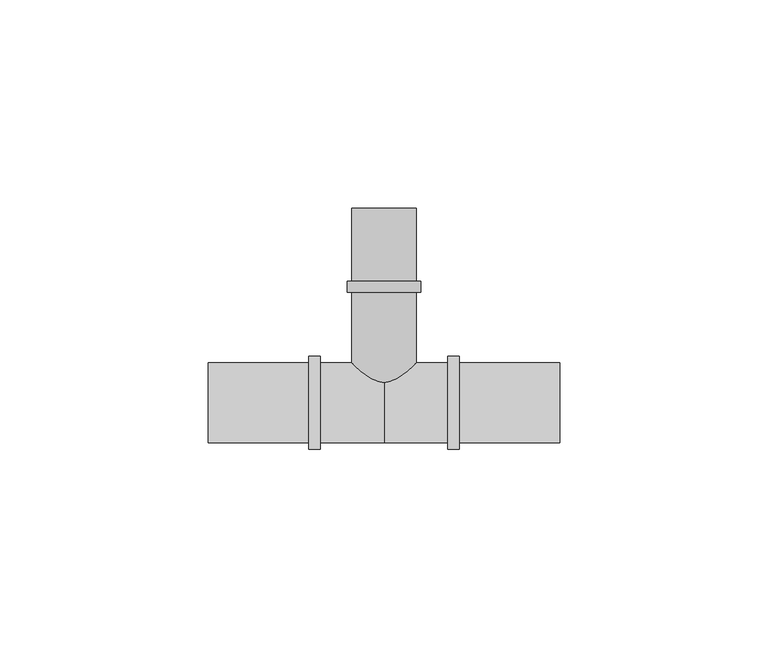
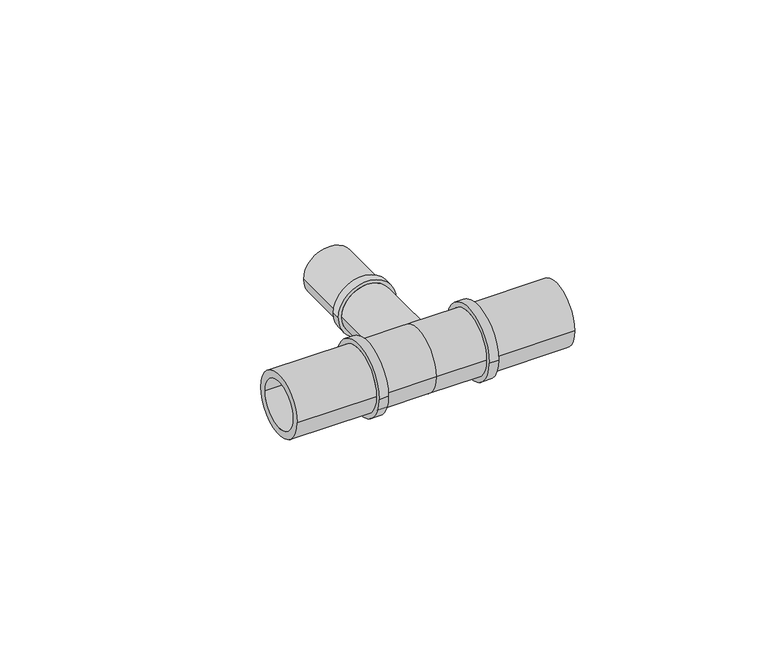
"""IFC4 building model written with IfcOpenShell, lengths in millimetres: pipe fitting geometry, FASTLOC_T-piece_LX : FSL T-Piece LX PL."""

import ifcopenshell
import ifcopenshell.guid

model = None  # the IFC model being written
_history = None  # IfcOwnerHistory: only IFC2X3 demands one
_inside = {}  # id of a spatial element -> (the spatial element, [elements in it])
_under = {}  # id of a project, library or spatial element -> (it, [spatial elements below it])
_declared = {}  # id of a project -> (the project, [libraries it declares])
_typed = {}  # id of a type object -> (the type object, [elements of that type])
_made_of = {}  # id of a material, layer set ... -> (it, [elements and type objects made of it])


def new_model(schema):
    """Start an empty IFC model of exactly this schema.

    Asked for "IFC4X3", IfcOpenShell would pick the latest addendum, in which some entities
    have other attributes; the version numbers below select the first issue.
    IFC2X3 requires an IfcOwnerHistory on every rooted entity: one is made here for all.
    """
    global model, _history
    if schema == "IFC4X3":
        model = ifcopenshell.file(schema_version=(4, 3, 0, 0))
    else:
        model = ifcopenshell.file(schema=schema)
    _inside.clear()
    _under.clear()
    _declared.clear()
    _typed.clear()
    _made_of.clear()
    _history = None
    if model.schema == "IFC2X3":
        org = make("IfcOrganization", Name="unknown")
        user = make(
            "IfcPersonAndOrganization",
            ThePerson=make("IfcPerson", FamilyName="unknown"),
            TheOrganization=org,
        )
        app = make(
            "IfcApplication",
            ApplicationDeveloper=org,
            Version="unknown",
            ApplicationFullName="unknown",
            ApplicationIdentifier="unknown",
        )
        _history = make(
            "IfcOwnerHistory",
            OwningUser=user,
            OwningApplication=app,
            ChangeAction="ADDED",
            CreationDate=0,
        )
    return model


def make(cls, **values):
    """One entity of the class cls with the attributes given. An attribute that is None is left unset."""
    return model.create_entity(
        cls, **{name: value for name, value in values.items() if value is not None}
    )


def rooted(cls, **values):
    """An entity with a GlobalId (a new one), such as an element, a storey or a relation."""
    return make(cls, GlobalId=ifcopenshell.guid.new(), OwnerHistory=_history, **values)


def si_unit(unit_type, name, prefix=None):
    """IfcSIUnit, for example si_unit("LENGTHUNIT", "METRE", prefix="MILLI")."""
    return make("IfcSIUnit", UnitType=unit_type, Prefix=prefix, Name=name)


def assignment(units):
    """IfcUnitAssignment: the units of a project."""
    return None if units is None else make("IfcUnitAssignment", Units=units)


def point(xyz):
    """IfcCartesianPoint."""
    return None if xyz is None else make("IfcCartesianPoint", Coordinates=xyz)


def direction(xyz):
    """IfcDirection."""
    return None if xyz is None else make("IfcDirection", DirectionRatios=xyz)


def frame(location, z_axis=None, x_axis=None):
    """IfcAxis2Placement3D, a coordinate frame: its origin and axes. An axis left out is left unset."""
    return make(
        "IfcAxis2Placement3D",
        Location=point(location),
        Axis=direction(z_axis),
        RefDirection=direction(x_axis),
    )


def origin():
    """The frame at (0, 0, 0) with its axes left unset."""
    return frame((0.0, 0.0, 0.0))


def place(relative_to, where):
    """IfcLocalPlacement: puts the frame where relative to a parent placement (None: the world)."""
    return make(
        "IfcLocalPlacement", PlacementRelTo=relative_to, RelativePlacement=where
    )


def context(
    kind, dimensions, precision=None, world=None, true_north=None, identifier=None
):
    """IfcGeometricRepresentationContext, for example the 3D "Model" context."""
    return make(
        "IfcGeometricRepresentationContext",
        ContextIdentifier=identifier,
        ContextType=kind,
        CoordinateSpaceDimension=dimensions,
        Precision=precision,
        WorldCoordinateSystem=world,
        TrueNorth=true_north,
    )


def project(units=None, contexts=None):
    """IfcProject with its units and contexts."""
    return rooted(
        "IfcProject",
        Name="project",
        RepresentationContexts=contexts,
        UnitsInContext=assignment(units),
    )


def spatial(cls, under=None, at=None, **own):
    """A site, building, storey or space (cls), placed at a placement, below another one or the project."""
    s = rooted(cls, ObjectPlacement=at, **own)
    if under is not None:
        _under.setdefault(under.id(), (under, []))[1].append(s)
    return s


def polyline(points):
    """IfcPolyline through the points."""
    return make("IfcPolyline", Points=[point(p) for p in points])


def circle_curve(where, radius):
    """IfcCircle in the frame where."""
    return make("IfcCircle", Position=where, Radius=radius)


def shape(context_of_items, identifier, shape_type, items):
    """IfcShapeRepresentation: the items that make up one representation, for example the "Body"."""
    return make(
        "IfcShapeRepresentation",
        ContextOfItems=context_of_items,
        RepresentationIdentifier=identifier,
        RepresentationType=shape_type,
        Items=items,
    )


def source(mapping_origin, context_of_items, identifier, shape_type, items):
    """IfcRepresentationMap: a shape defined once, which mapped items show again and again."""
    return make(
        "IfcRepresentationMap",
        MappingOrigin=mapping_origin,
        MappedRepresentation=shape(context_of_items, identifier, shape_type, items),
    )


def transform(
    local_origin,
    x_axis=None,
    y_axis=None,
    z_axis=None,
    scale=None,
    scale2=None,
    scale3=None,
    uniform=True,
):
    """IfcCartesianTransformationOperator3D, or its non-uniform kind. x_axis, y_axis, z_axis: its Axis1, 2, 3."""
    if uniform:
        return make(
            "IfcCartesianTransformationOperator3D",
            Axis1=direction(x_axis),
            Axis2=direction(y_axis),
            LocalOrigin=point(local_origin),
            Scale=scale,
            Axis3=direction(z_axis),
        )
    return make(
        "IfcCartesianTransformationOperator3DnonUniform",
        Axis1=direction(x_axis),
        Axis2=direction(y_axis),
        LocalOrigin=point(local_origin),
        Scale=scale,
        Axis3=direction(z_axis),
        Scale2=scale2,
        Scale3=scale3,
    )


def mapped(mapping_source, mapping_target):
    """IfcMappedItem: shows the shape of a source again, moved by a transform."""
    return make(
        "IfcMappedItem", MappingSource=mapping_source, MappingTarget=mapping_target
    )


def made_of(thing, what):
    """Note that an element or type object is made of a material, layer set ...; save() writes the relation."""
    if what is not None:
        _made_of.setdefault(what.id(), (what, []))[1].append(thing)
    return thing


def element(
    cls,
    number,
    at=None,
    inside=None,
    cuts=None,
    type_object=None,
    material=None,
    context=None,
    identifier="Body",
    shape_type=None,
    held_by="IfcProductDefinitionShape",
    body=None,
    shapes=None,
    **own,
):
    """One element of the class cls, such as IfcWall. Its Tag is "e" and its number.

    at: its placement. inside: the storey or other place that contains it. cuts: it is an
    opening in that element (IfcRelVoidsElement). A single representation is given by context,
    identifier, shape_type and body (its items); several are given by shapes. held_by: the class
    of the entity that holds the representations. save() writes the other relations.
    """
    e = rooted(cls, Tag="e%d" % number, ObjectPlacement=at, **own)
    if body is not None:
        shapes = [shape(context, identifier, shape_type, body)]
    if shapes is not None:
        e.Representation = make(held_by, Representations=shapes)
    if inside is not None:
        _inside.setdefault(inside.id(), (inside, []))[1].append(e)
    if cuts is not None:
        rooted(
            "IfcRelVoidsElement", RelatingBuildingElement=cuts, RelatedOpeningElement=e
        )
    if type_object is not None:
        _typed.setdefault(type_object.id(), (type_object, []))[1].append(e)
    return made_of(e, material)


def aggregate(whole, parts):
    """IfcRelAggregates: a whole, such as a stair, and the parts it consists of."""
    return rooted("IfcRelAggregates", RelatingObject=whole, RelatedObjects=parts)


def save(model, path):
    """Write the relations noted so far, then the file.

    IfcRelAggregates (storeys below a building ...), IfcRelContainedInSpatialStructure (elements
    in a storey), IfcRelDefinesByType, IfcRelAssociatesMaterial and IfcRelDeclares: one each for
    every whole, place, type object, material and project.
    """
    for whole, parts in _under.values():
        aggregate(whole, parts)
    for where, things in _inside.values():
        rooted(
            "IfcRelContainedInSpatialStructure",
            RelatedElements=things,
            RelatingStructure=where,
        )
    for kind, things in _typed.values():
        rooted("IfcRelDefinesByType", RelatedObjects=things, RelatingType=kind)
    for what, things in _made_of.values():
        rooted("IfcRelAssociatesMaterial", RelatedObjects=things, RelatingMaterial=what)
    for by, libraries in _declared.values():
        rooted("IfcRelDeclares", RelatingContext=by, RelatedDefinitions=libraries)
    model.write(path)


def plane_surface(at):
    """IfcPlane: the flat surface through the origin of the frame at, square to its z axis."""
    return make("IfcPlane", Position=at)


def cylinder_surface(at, radius):
    """IfcCylindricalSurface: all points at the distance radius from the z axis of the frame at."""
    return make("IfcCylindricalSurface", Position=at, Radius=radius)


def revolved_surface(curve, axis_point, axis_direction):
    """IfcSurfaceOfRevolution: the curve turned about the line through axis_point along axis_direction."""
    return make(
        "IfcSurfaceOfRevolution",
        SweptCurve=make("IfcArbitraryOpenProfileDef", ProfileType="CURVE", Curve=curve),
        AxisPosition=make("IfcAxis1Placement", Location=point(axis_point), Axis=direction(axis_direction)),
    )


def advanced_brep(points, edges, surfaces, faces):
    """IfcAdvancedBrep: a solid bounded by faces that lie on surfaces and meet in shared edges.

    An edge is (start, end): straight between two places in points (the first is 0);
    or (start, end, curve); or (start, end, curve, False) where it runs against its curve.
    A face is (place in surfaces, loops), or (place, loops, False) where it looks against
    its surface's normal. A loop lists edges by number (the first is 1), with a minus sign
    where the edge is run from its end to its start. The first loop is the outer one.
    """
    corners = [point(p) for p in points]
    vertices = [make("IfcVertexPoint", VertexGeometry=c) for c in corners]
    made = []
    for start, end, *more in edges:
        made.append(
            make(
                "IfcEdgeCurve",
                EdgeStart=vertices[start],
                EdgeEnd=vertices[end],
                EdgeGeometry=more[0] if more else make("IfcPolyline", Points=[corners[start], corners[end]]),
                SameSense=more[1] if len(more) > 1 else True,
            )
        )
    hull = []
    for where, loops, *sense in faces:
        bounds = []
        for j, loop in enumerate(loops):
            ring = [make("IfcOrientedEdge", EdgeElement=made[abs(k) - 1], Orientation=k > 0) for k in loop]
            bounds.append(
                make(
                    "IfcFaceOuterBound" if j == 0 else "IfcFaceBound",
                    Bound=make("IfcEdgeLoop", EdgeList=ring),
                    Orientation=True,
                )
            )
        hull.append(make("IfcAdvancedFace", Bounds=bounds, FaceSurface=surfaces[where], SameSense=sense[0] if sense else True))
    return make("IfcAdvancedBrep", Outer=make("IfcClosedShell", CfsFaces=hull))


def pipe_fitting_1d61267e(model_context):
    return source(origin(), model_context, "Body", "AdvancedBrep", [
        advanced_brep(
        [(5.75, 46.6, 0.0), (-5.75, 46.6, 0.0), (-5.75, 0.0, 0.0), (5.75, 0.0, 0.0), (7.75, 0.0, 0.0), (-7.75, 0.0, 0.0), (-7.75, 26.53, 0.0), (7.75, 26.53, 0.0), (8.8, 26.53, 0.0), (-8.8, 26.53, 0.0), (-8.8, 29.2, 0.0), (8.8, 29.2, 0.0), (7.75, 29.2, 0.0), (-7.75, 29.2, 0.0), (-7.75, 46.6, 0.0), (7.75, 46.6, 0.0)],
        [
            (0, 1, circle_curve(frame((0.0, 46.6, 0.0), z_axis=(0.0, 1.0, 0.0), x_axis=(-1.0, 0.0, 0.0)), 5.75)),
            (1, 2),
            (2, 3, circle_curve(frame((0.0, 0.0, 0.0), z_axis=(0.0, -1.0, 0.0), x_axis=(-1.0, 0.0, 0.0)), 5.75)),
            (3, 0),
            (4, 5, circle_curve(frame((0.0, 0.0, 0.0), z_axis=(0.0, 1.0, 0.0), x_axis=(-1.0, 0.0, 0.0)), 7.75)),
            (5, 6),
            (6, 7, circle_curve(frame((0.0, 26.53, 0.0), z_axis=(0.0, -1.0, 0.0), x_axis=(-1.0, 0.0, 0.0)), 7.75)),
            (7, 4),
            (8, 9, circle_curve(frame((0.0, 26.53, 0.0), z_axis=(0.0, 1.0, 0.0), x_axis=(-1.0, 0.0, 0.0)), 8.8)),
            (9, 10),
            (10, 11, circle_curve(frame((0.0, 29.2, 0.0), z_axis=(0.0, -1.0, 0.0), x_axis=(-1.0, 0.0, 0.0)), 8.8)),
            (11, 8),
            (12, 13, circle_curve(frame((0.0, 29.2, 0.0), z_axis=(0.0, 1.0, 0.0), x_axis=(-1.0, 0.0, 0.0)), 7.75)),
            (13, 14),
            (14, 15, circle_curve(frame((0.0, 46.6, 0.0), z_axis=(0.0, -1.0, 0.0), x_axis=(-1.0, 0.0, 0.0)), 7.75)),
            (15, 12),
            (1, 0, circle_curve(frame((0.0, 46.6, 0.0), z_axis=(0.0, 1.0, 0.0), x_axis=(1.0, 0.0, 0.0)), 5.75)),
            (3, 2, circle_curve(frame((0.0, 0.0, 0.0), z_axis=(0.0, -1.0, 0.0), x_axis=(1.0, 0.0, 0.0)), 5.75)),
            (4, 5, circle_curve(frame((0.0, 0.0, 0.0), z_axis=(0.0, -1.0, 0.0), x_axis=(1.0, 0.0, 0.0)), 7.75)),
            (7, 6, circle_curve(frame((0.0, 26.53, 0.0), z_axis=(0.0, -1.0, 0.0), x_axis=(1.0, 0.0, 0.0)), 7.75)),
            (8, 9, circle_curve(frame((0.0, 26.53, 0.0), z_axis=(0.0, -1.0, 0.0), x_axis=(1.0, 0.0, 0.0)), 8.8)),
            (11, 10, circle_curve(frame((0.0, 29.2, 0.0), z_axis=(0.0, -1.0, 0.0), x_axis=(1.0, 0.0, 0.0)), 8.8)),
            (12, 13, circle_curve(frame((0.0, 29.2, 0.0), z_axis=(0.0, -1.0, 0.0), x_axis=(1.0, 0.0, 0.0)), 7.75)),
            (15, 14, circle_curve(frame((0.0, 46.6, 0.0), z_axis=(0.0, -1.0, 0.0), x_axis=(1.0, 0.0, 0.0)), 7.75)),
        ],
        [
            revolved_surface(polyline([(-5.75, 0.0, 0.0), (-5.75, 46.6, 0.0)]), (0.0, 0.0, 0.0), (0.0, -1.0, 0.0)),
            cylinder_surface(frame((0.0, 0.0, 0.0), z_axis=(0.0, -1.0, 0.0), x_axis=(-1.0, 0.0, 0.0)), 7.75),
            cylinder_surface(frame((0.0, 0.0, 0.0), z_axis=(0.0, -1.0, 0.0), x_axis=(-1.0, 0.0, 0.0)), 8.8),
            revolved_surface(polyline([(5.75, 0.0, 0.0), (5.75, 46.6, 0.0)]), (0.0, 0.0, 0.0), (0.0, -1.0, 0.0)),
            plane_surface(frame((0.0, 0.0, 0.0), z_axis=(0.0, -1.0, 0.0), x_axis=(1.0, 0.0, 0.0))),
            cylinder_surface(frame((0.0, 0.0, 0.0), z_axis=(0.0, -1.0, 0.0), x_axis=(1.0, 0.0, 0.0)), 7.75),
            plane_surface(frame((0.0, 26.53, 0.0), z_axis=(0.0, -1.0, 0.0), x_axis=(1.0, 0.0, 0.0))),
            cylinder_surface(frame((0.0, 0.0, 0.0), z_axis=(0.0, -1.0, 0.0), x_axis=(1.0, 0.0, 0.0)), 8.8),
            plane_surface(frame((0.0, 29.2, 0.0), z_axis=(0.0, 1.0, 0.0), x_axis=(1.0, 0.0, 0.0))),
            plane_surface(frame((0.0, 46.6, 0.0), z_axis=(0.0, 1.0, 0.0), x_axis=(1.0, 0.0, 0.0))),
        ],
        [
            (0, [[1, 2, 3, 4]]),
            (1, [[5, 6, 7, 8]]),
            (2, [[9, 10, 11, 12]]),
            (1, [[13, 14, 15, 16]]),
            (3, [[17, -4, 18, -2]]),
            (4, [[19, -5], [-18, -3]]),
            (5, [[-19, -8, 20, -6]]),
            (6, [[21, -9], [-20, -7]]),
            (7, [[-21, -12, 22, -10]]),
            (8, [[-22, -11], [23, -13]]),
            (5, [[-23, -16, 24, -14]]),
            (9, [[-24, -15], [-17, -1]]),
        ],
    ),
        advanced_brep(
        [(0.0, 9.6, 0.0), (0.0, -9.6, 0.0), (-15.3, -9.6, 0.0), (-15.3, 9.6, 0.0), (15.3, 9.6, 0.0), (15.3, -9.6, 0.0), (18.1, 11.1, 0.0), (18.1, -11.1, 0.0), (15.3, -11.1, 0.0), (15.3, 11.1, 0.0), (42.1, 9.6, 0.0), (42.1, -9.6, 0.0), (18.1, -9.6, 0.0), (18.1, 9.6, 0.0), (-18.1, 9.6, 0.0), (-18.1, -9.6, 0.0), (-42.1, -9.6, 0.0), (-42.1, 9.6, 0.0), (-15.3, 11.1, 0.0), (-15.3, -11.1, 0.0), (-18.1, -11.1, 0.0), (-18.1, 11.1, 0.0), (42.1, -7.35, 0.0), (42.1, 7.35, 0.0), (-42.1, 7.35, 0.0), (-42.1, -7.35, 0.0), (0.0, 7.35, 0.0), (0.0, -7.35, 0.0)],
        [
            (0, 1, circle_curve(frame((0.0, 0.0, 0.0), z_axis=(-1.0, 0.0, 0.0), x_axis=(0.0, -1.0, 0.0)), 9.6)),
            (1, 2),
            (2, 3, circle_curve(frame((-15.3, 0.0, 0.0), z_axis=(1.0, 0.0, 0.0), x_axis=(0.0, -1.0, 0.0)), 9.6)),
            (3, 0),
            (4, 5, circle_curve(frame((15.3, 0.0, 0.0), z_axis=(-1.0, 0.0, 0.0), x_axis=(0.0, -1.0, 0.0)), 9.6)),
            (5, 1),
            (0, 4),
            (6, 7, circle_curve(frame((18.1, 0.0, 0.0), z_axis=(-1.0, 0.0, 0.0), x_axis=(0.0, -1.0, 0.0)), 11.1)),
            (7, 8),
            (8, 9, circle_curve(frame((15.3, 0.0, 0.0), z_axis=(1.0, 0.0, 0.0), x_axis=(0.0, -1.0, 0.0)), 11.1)),
            (9, 6),
            (10, 11, circle_curve(frame((42.1, 0.0, 0.0), z_axis=(-1.0, 0.0, 0.0), x_axis=(0.0, -1.0, 0.0)), 9.6)),
            (11, 12),
            (12, 13, circle_curve(frame((18.1, 0.0, 0.0), z_axis=(1.0, 0.0, 0.0), x_axis=(0.0, -1.0, 0.0)), 9.6)),
            (13, 10),
            (14, 15, circle_curve(frame((-18.1, 0.0, 0.0), z_axis=(-1.0, 0.0, 0.0), x_axis=(0.0, -1.0, 0.0)), 9.6)),
            (15, 16),
            (16, 17, circle_curve(frame((-42.1, 0.0, 0.0), z_axis=(1.0, 0.0, 0.0), x_axis=(0.0, -1.0, 0.0)), 9.6)),
            (17, 14),
            (18, 19, circle_curve(frame((-15.3, 0.0, 0.0), z_axis=(-1.0, 0.0, 0.0), x_axis=(0.0, -1.0, 0.0)), 11.1)),
            (19, 20),
            (20, 21, circle_curve(frame((-18.1, 0.0, 0.0), z_axis=(1.0, 0.0, 0.0), x_axis=(0.0, -1.0, 0.0)), 11.1)),
            (21, 18),
            (18, 19, circle_curve(frame((-15.3, 0.0, 0.0), z_axis=(1.0, 0.0, 0.0), x_axis=(0.0, 1.0, 0.0)), 11.1)),
            (2, 3, circle_curve(frame((-15.3, 0.0, 0.0), z_axis=(-1.0, 0.0, 0.0), x_axis=(0.0, 1.0, 0.0)), 9.6)),
            (1, 0, circle_curve(frame((0.0, 0.0, 0.0), z_axis=(-1.0, 0.0, 0.0), x_axis=(0.0, 1.0, 0.0)), 9.6)),
            (5, 4, circle_curve(frame((15.3, 0.0, 0.0), z_axis=(-1.0, 0.0, 0.0), x_axis=(0.0, 1.0, 0.0)), 9.6)),
            (8, 9, circle_curve(frame((15.3, 0.0, 0.0), z_axis=(-1.0, 0.0, 0.0), x_axis=(0.0, 1.0, 0.0)), 11.1)),
            (7, 6, circle_curve(frame((18.1, 0.0, 0.0), z_axis=(-1.0, 0.0, 0.0), x_axis=(0.0, 1.0, 0.0)), 11.1)),
            (12, 13, circle_curve(frame((18.1, 0.0, 0.0), z_axis=(-1.0, 0.0, 0.0), x_axis=(0.0, 1.0, 0.0)), 9.6)),
            (11, 10, circle_curve(frame((42.1, 0.0, 0.0), z_axis=(-1.0, 0.0, 0.0), x_axis=(0.0, 1.0, 0.0)), 9.6)),
            (22, 23, circle_curve(frame((42.1, 0.0, 0.0), z_axis=(-1.0, 0.0, 0.0), x_axis=(0.0, 1.0, 0.0)), 7.35)),
            (23, 22, circle_curve(frame((42.1, 0.0, 0.0), z_axis=(-1.0, 0.0, 0.0), x_axis=(0.0, -1.0, 0.0)), 7.35)),
            (16, 17, circle_curve(frame((-42.1, 0.0, 0.0), z_axis=(-1.0, 0.0, 0.0), x_axis=(0.0, 1.0, 0.0)), 9.6)),
            (24, 25, circle_curve(frame((-42.1, 0.0, 0.0), z_axis=(1.0, 0.0, 0.0), x_axis=(0.0, 1.0, 0.0)), 7.35)),
            (25, 24, circle_curve(frame((-42.1, 0.0, 0.0), z_axis=(1.0, 0.0, 0.0), x_axis=(0.0, -1.0, 0.0)), 7.35)),
            (15, 14, circle_curve(frame((-18.1, 0.0, 0.0), z_axis=(-1.0, 0.0, 0.0), x_axis=(0.0, 1.0, 0.0)), 9.6)),
            (20, 21, circle_curve(frame((-18.1, 0.0, 0.0), z_axis=(-1.0, 0.0, 0.0), x_axis=(0.0, 1.0, 0.0)), 11.1)),
            (26, 27, circle_curve(frame((0.0, 0.0, 0.0), z_axis=(-1.0, 0.0, 0.0), x_axis=(0.0, -1.0, 0.0)), 7.35)),
            (27, 22),
            (23, 26),
            (25, 27),
            (26, 24),
            (27, 26, circle_curve(frame((0.0, 0.0, 0.0), z_axis=(-1.0, 0.0, 0.0), x_axis=(0.0, 1.0, 0.0)), 7.35)),
        ],
        [
            cylinder_surface(frame((0.0, 0.0, 0.0), z_axis=(1.0, 0.0, 0.0), x_axis=(0.0, -1.0, 0.0)), 9.6),
            cylinder_surface(frame((0.0, 0.0, 0.0), z_axis=(1.0, 0.0, 0.0), x_axis=(0.0, -1.0, 0.0)), 11.1),
            plane_surface(frame((-15.3, 0.0, 0.0), z_axis=(1.0, 0.0, 0.0), x_axis=(0.0, 1.0, 0.0))),
            cylinder_surface(frame((0.0, 0.0, 0.0), z_axis=(1.0, 0.0, 0.0), x_axis=(0.0, 1.0, 0.0)), 9.6),
            plane_surface(frame((15.3, 0.0, 0.0), z_axis=(-1.0, 0.0, 0.0), x_axis=(0.0, 1.0, 0.0))),
            cylinder_surface(frame((0.0, 0.0, 0.0), z_axis=(1.0, 0.0, 0.0), x_axis=(0.0, 1.0, 0.0)), 11.1),
            plane_surface(frame((18.1, 0.0, 0.0), z_axis=(1.0, 0.0, 0.0), x_axis=(0.0, 1.0, 0.0))),
            plane_surface(frame((42.1, 0.0, 0.0), z_axis=(1.0, 0.0, 0.0), x_axis=(0.0, 1.0, 0.0))),
            plane_surface(frame((-42.1, 0.0, 0.0), z_axis=(-1.0, 0.0, 0.0), x_axis=(0.0, 1.0, 0.0))),
            plane_surface(frame((-18.1, 0.0, 0.0), z_axis=(-1.0, 0.0, 0.0), x_axis=(0.0, 1.0, 0.0))),
            revolved_surface(polyline([(42.1, -7.35, 0.0), (0.0, -7.35, 0.0)]), (0.0, 0.0, 0.0), (1.0, 0.0, 0.0)),
            revolved_surface(polyline([(0.0, -7.35, 0.0), (-42.1, -7.35, 0.0)]), (0.0, 0.0, 0.0), (1.0, 0.0, 0.0)),
            revolved_surface(polyline([(42.1, 7.35, 0.0), (0.0, 7.35, 0.0)]), (0.0, 0.0, 0.0), (1.0, 0.0, 0.0)),
            revolved_surface(polyline([(0.0, 7.35, 0.0), (-42.1, 7.35, 0.0)]), (0.0, 0.0, 0.0), (1.0, 0.0, 0.0)),
        ],
        [
            (0, [[1, 2, 3, 4]]),
            (0, [[5, 6, -1, 7]]),
            (1, [[8, 9, 10, 11]]),
            (0, [[12, 13, 14, 15]]),
            (0, [[16, 17, 18, 19]]),
            (1, [[20, 21, 22, 23]]),
            (2, [[24, -20], [25, -3]]),
            (3, [[26, -4, -25, -2]]),
            (3, [[27, -7, -26, -6]]),
            (4, [[28, -10], [-27, -5]]),
            (5, [[29, -11, -28, -9]]),
            (6, [[-29, -8], [30, -14]]),
            (3, [[31, -15, -30, -13]]),
            (7, [[-31, -12], [32, 33]]),
            (8, [[34, -18], [35, 36]]),
            (3, [[37, -19, -34, -17]]),
            (9, [[38, -22], [-37, -16]]),
            (5, [[-24, -23, -38, -21]]),
            (10, [[39, 40, -33, 41]]),
            (11, [[-36, 42, -39, 43]]),
            (12, [[44, -41, -32, -40]]),
            (13, [[-35, -43, -44, -42]]),
        ],
    ),
    ])


if __name__ == "__main__":
    model = new_model("IFC4")
    model_context = context("Model", 3, world=origin())
    ifc_project = project(units=[si_unit("LENGTHUNIT", "METRE", prefix="MILLI")], contexts=[model_context])
    site = spatial("IfcSite", under=ifc_project)
    building = spatial("IfcBuilding", under=site)
    placement = place(None, origin())
    pipe_fitting_shape = pipe_fitting_1d61267e(model_context)
    element("IfcPipeFitting", 1, ObjectType="FASTLOC_T-piece_LX : FSL T-Piece LX PL", at=placement, inside=building, context=model_context, shape_type="MappedRepresentation", body=[
        mapped(pipe_fitting_shape, transform((0.0, 0.0, 0.0), x_axis=(1.0, 0.0, 0.0), y_axis=(0.0, 1.0, 0.0), z_axis=(0.0, 0.0, 1.0))),
    ])
    save(model, "model.ifc")
